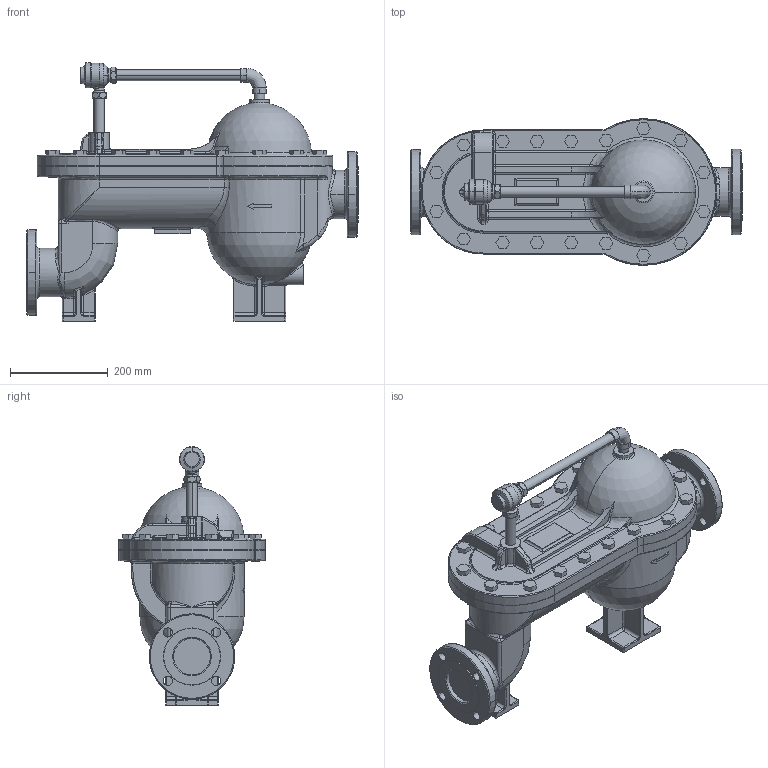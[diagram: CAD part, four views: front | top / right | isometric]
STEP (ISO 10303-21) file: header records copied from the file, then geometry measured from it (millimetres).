
FILE_DESCRIPTION( (''), '2;1');
FILE_NAME ('PC1027.12188.TF-1 65A_6985.stp','2025-07-31T16:49:56',(''),(''),'spGate 20.6.3 (****-****-****-****)','','');
FILE_SCHEMA (('AUTOMOTIVE_DESIGN'));
Length unit declared in the file: millimetre
Bounding box: 680 x 300 x 530 mm (x, y, z)
Volume: 25210219.8 mm3; surface area: 910095.4 mm2
Topology: 1 solids, 1 shells, 925 faces, 2245 edges, 1315 vertices
Faces by surface type: bspline 350, plane 278, cylinder 263, sphere 34
Entity records: 52730 total; most frequent: CARTESIAN_POINT 15619, ORIENTED_EDGE 4370, DIRECTION 3618, COLOUR_RGB 3111, PRESENTATION_STYLE_ASSIGNMENT 3111, STYLED_ITEM 3111, EDGE_CURVE 2185, DRAUGHTING_PRE_DEFINED_CURVE_FONT 2185
